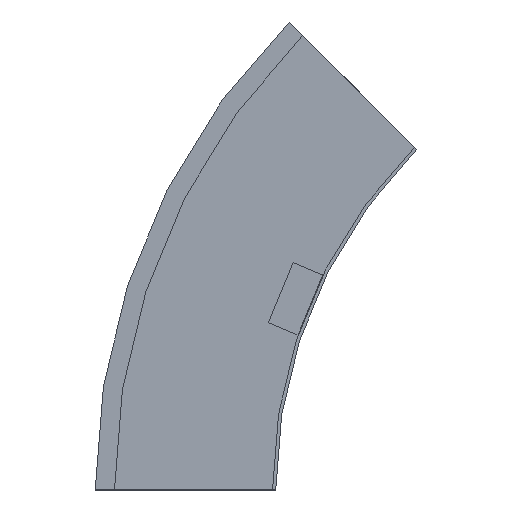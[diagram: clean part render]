
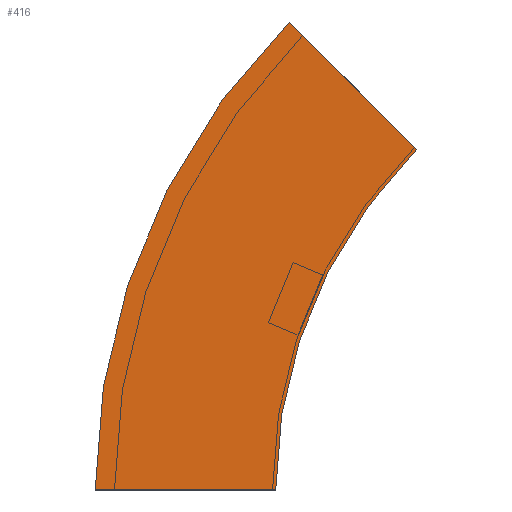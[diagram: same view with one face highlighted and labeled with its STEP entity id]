
A CAD part, left-side view. The second image highlights one B-rep face of the part: STEP entity #416.
In plain terms, the highlighted planar face has unit normal (-1, 0, 0) as drawn and (1, 0, 0) by its records, which use the part's own axes.
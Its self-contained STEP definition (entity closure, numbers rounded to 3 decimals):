
#17 = CIRCLE ( 'NONE', #37, 300. ) ;
#37 = AXIS2_PLACEMENT_3D ( 'NONE', #248, #420, #136 ) ;
#55 = EDGE_CURVE ( 'NONE', #164, #406, #413, .T. ) ;
#76 = VERTEX_POINT ( 'NONE', #539 ) ;
#113 = DIRECTION ( 'NONE',  ( 0., 1., 0. ) ) ;
#121 = ORIENTED_EDGE ( 'NONE', *, *, #526, .T. ) ;
#134 = VERTEX_POINT ( 'NONE', #295 ) ;
#136 = DIRECTION ( 'NONE',  ( 0., 1., 0. ) ) ;
#158 = DIRECTION ( 'NONE',  ( 1., 0., 0. ) ) ;
#164 = VERTEX_POINT ( 'NONE', #462 ) ;
#165 = CARTESIAN_POINT ( 'NONE',  ( 0., 0., 0. ) ) ;
#172 = AXIS2_PLACEMENT_3D ( 'NONE', #300, #158, #494 ) ;
#182 = ORIENTED_EDGE ( 'NONE', *, *, #55, .F. ) ;
#191 = CIRCLE ( 'NONE', #172, 412.5 ) ;
#218 = ORIENTED_EDGE ( 'NONE', *, *, #419, .F. ) ;
#241 = ORIENTED_EDGE ( 'NONE', *, *, #508, .T. ) ;
#248 = CARTESIAN_POINT ( 'NONE',  ( 0., -300., 0. ) ) ;
#250 = DIRECTION ( 'NONE',  ( 0., 0.707, 0.707 ) ) ;
#293 = VECTOR ( 'NONE', #250, 1000. ) ;
#295 = CARTESIAN_POINT ( 'NONE',  ( 0., 0., 0. ) ) ;
#297 = DIRECTION ( 'NONE',  ( 0., 0., -1. ) ) ;
#300 = CARTESIAN_POINT ( 'NONE',  ( 0., -300., 0. ) ) ;
#309 = CARTESIAN_POINT ( 'NONE',  ( 0., -8.318, 291.682 ) ) ;
#333 = CARTESIAN_POINT ( 'NONE',  ( 0., -87.868, 212.132 ) ) ;
#339 = AXIS2_PLACEMENT_3D ( 'NONE', #388, #510, #297 ) ;
#364 = EDGE_LOOP ( 'NONE', ( #121, #182, #218, #241 ) ) ;
#383 = PLANE ( 'NONE',  #339 ) ;
#388 = CARTESIAN_POINT ( 'NONE',  ( 0., 0., 0. ) ) ;
#406 = VERTEX_POINT ( 'NONE', #309 ) ;
#413 = LINE ( 'NONE', #333, #293 ) ;
#416 = ADVANCED_FACE ( 'NONE', ( #424 ), #383, .T. ) ;
#419 = EDGE_CURVE ( 'NONE', #134, #164, #17, .T. ) ;
#420 = DIRECTION ( 'NONE',  ( 1., 0., 0. ) ) ;
#424 = FACE_OUTER_BOUND ( 'NONE', #364, .T. ) ;
#462 = CARTESIAN_POINT ( 'NONE',  ( 0., -87.868, 212.132 ) ) ;
#494 = DIRECTION ( 'NONE',  ( 0., 1., 0. ) ) ;
#498 = LINE ( 'NONE', #165, #531 ) ;
#508 = EDGE_CURVE ( 'NONE', #134, #76, #498, .T. ) ;
#510 = DIRECTION ( 'NONE',  ( 1., 0., 0. ) ) ;
#526 = EDGE_CURVE ( 'NONE', #76, #406, #191, .T. ) ;
#531 = VECTOR ( 'NONE', #113, 1000. ) ;
#539 = CARTESIAN_POINT ( 'NONE',  ( 0., 112.5, 0. ) ) ;
